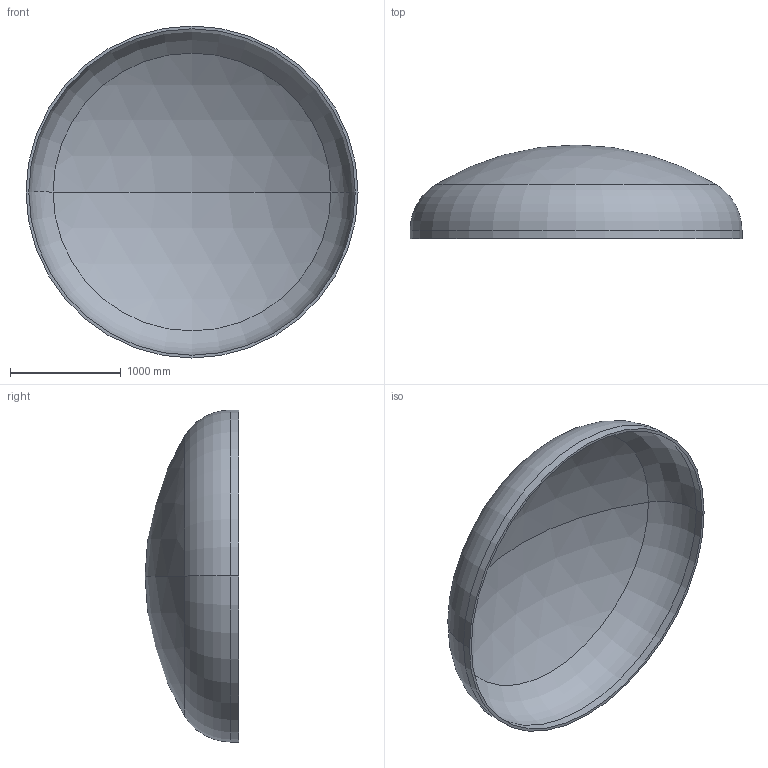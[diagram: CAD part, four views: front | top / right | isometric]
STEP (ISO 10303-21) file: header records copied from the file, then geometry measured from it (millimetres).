
FILE_DESCRIPTION (( 'STEP AP203' ), '1' );
FILE_NAME ('DIN 28013 Korbbogenform_-_Boden DIN 28013 - 3000 x 75 - I - s=25.step', '2016-07-01T17:37:08', ( '' ), ( '' ), 'SwSTEP 2.0', 'SolidWorks 2013', '' );
FILE_SCHEMA (( 'CONFIG_CONTROL_DESIGN' ));
Length unit declared in the file: millimetre
Products named in the file (1): DIN 28013 Korbbogenform_-_Boden DIN 28013 - 3000 x 75 - I - s=25
Bounding box: 3000 x 846.71 x 3000 mm (x, y, z)
Volume: 259385136.8 mm3; surface area: 20985768 mm2
Topology: 1 solids, 1 shells, 13 faces, 24 edges, 14 vertices
Faces by surface type: torus 4, cylinder 4, sphere 4, plane 1
Entity records: 407 total; most frequent: DIRECTION 72, CARTESIAN_POINT 52, ORIENTED_EDGE 48, AXIS2_PLACEMENT_3D 34, EDGE_CURVE 24, CIRCLE 20, EDGE_LOOP 14, VERTEX_POINT 14
